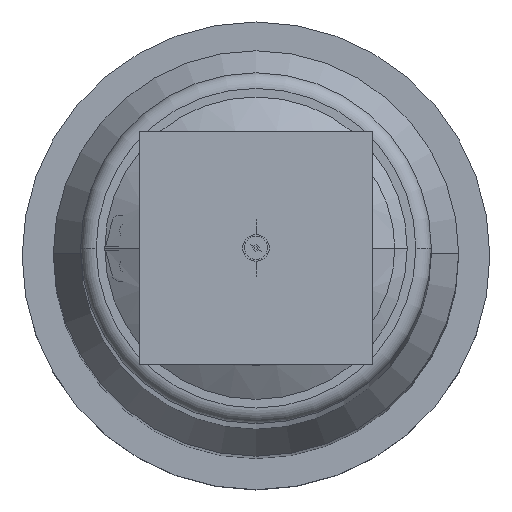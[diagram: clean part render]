
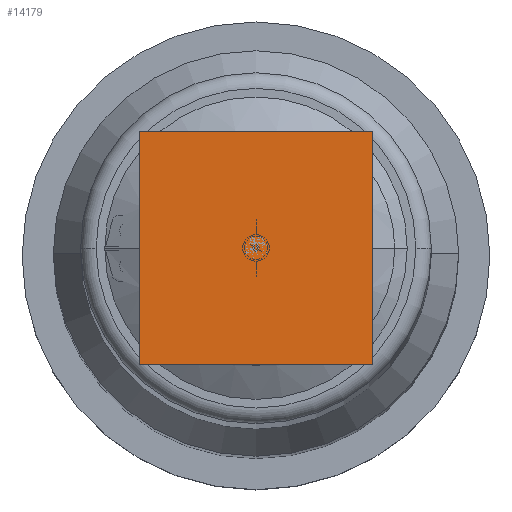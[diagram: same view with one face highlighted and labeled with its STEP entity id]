
A CAD part, top view. The second image highlights one B-rep face of the part: STEP entity #14179.
In plain terms, the highlighted planar face has unit normal (0, 0, 1).
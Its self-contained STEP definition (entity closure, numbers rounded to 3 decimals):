
#1041 = CARTESIAN_POINT ( 'NONE',  ( 15., 15., 615. ) ) ;
#1974 = EDGE_LOOP ( 'NONE', ( #10313, #17183, #17840, #19014 ) ) ;
#2891 = CARTESIAN_POINT ( 'NONE',  ( -15., 15., 615. ) ) ;
#3044 = CARTESIAN_POINT ( 'NONE',  ( 15., 15., 615. ) ) ;
#3390 = VECTOR ( 'NONE', #6715, 1000. ) ;
#4642 = DIRECTION ( 'NONE',  ( 0., 0., 1. ) ) ;
#4908 = LINE ( 'NONE', #11522, #3390 ) ;
#4966 = VERTEX_POINT ( 'NONE', #19077 ) ;
#5854 = VERTEX_POINT ( 'NONE', #8728 ) ;
#5980 = VECTOR ( 'NONE', #17709, 1000. ) ;
#6351 = DIRECTION ( 'NONE',  ( 0., 1., 0. ) ) ;
#6715 = DIRECTION ( 'NONE',  ( 1., 0., 0. ) ) ;
#7692 = DIRECTION ( 'NONE',  ( -1., 0., 0. ) ) ;
#7893 = DIRECTION ( 'NONE',  ( 1., 0., 0. ) ) ;
#8075 = FACE_OUTER_BOUND ( 'NONE', #1974, .T. ) ;
#8728 = CARTESIAN_POINT ( 'NONE',  ( -15., 15., 615. ) ) ;
#9910 = VERTEX_POINT ( 'NONE', #1041 ) ;
#10313 = ORIENTED_EDGE ( 'NONE', *, *, #15082, .T. ) ;
#10499 = VERTEX_POINT ( 'NONE', #19026 ) ;
#11522 = CARTESIAN_POINT ( 'NONE',  ( -15., -15., 615. ) ) ;
#12473 = LINE ( 'NONE', #17569, #18322 ) ;
#13072 = CARTESIAN_POINT ( 'NONE',  ( 0., 0., 615. ) ) ;
#14179 = ADVANCED_FACE ( 'NONE', ( #8075 ), #16213, .T. ) ;
#15082 = EDGE_CURVE ( 'NONE', #5854, #10499, #16667, .T. ) ;
#16161 = EDGE_CURVE ( 'NONE', #10499, #4966, #4908, .T. ) ;
#16213 = PLANE ( 'NONE',  #18256 ) ;
#16667 = LINE ( 'NONE', #2891, #5980 ) ;
#17183 = ORIENTED_EDGE ( 'NONE', *, *, #16161, .T. ) ;
#17212 = LINE ( 'NONE', #3044, #17456 ) ;
#17456 = VECTOR ( 'NONE', #6351, 1000. ) ;
#17569 = CARTESIAN_POINT ( 'NONE',  ( -15., 15., 615. ) ) ;
#17709 = DIRECTION ( 'NONE',  ( 0., -1., 0. ) ) ;
#17840 = ORIENTED_EDGE ( 'NONE', *, *, #20777, .T. ) ;
#18256 = AXIS2_PLACEMENT_3D ( 'NONE', #13072, #4642, #7893 ) ;
#18322 = VECTOR ( 'NONE', #7692, 1000. ) ;
#19014 = ORIENTED_EDGE ( 'NONE', *, *, #19159, .T. ) ;
#19026 = CARTESIAN_POINT ( 'NONE',  ( -15., -15., 615. ) ) ;
#19077 = CARTESIAN_POINT ( 'NONE',  ( 15., -15., 615. ) ) ;
#19159 = EDGE_CURVE ( 'NONE', #9910, #5854, #12473, .T. ) ;
#20777 = EDGE_CURVE ( 'NONE', #4966, #9910, #17212, .T. ) ;
